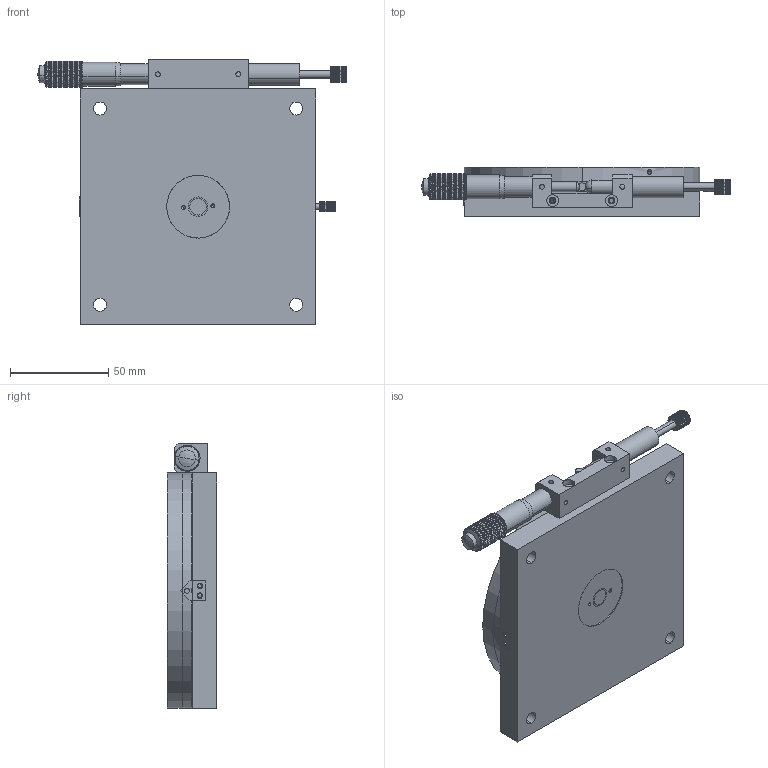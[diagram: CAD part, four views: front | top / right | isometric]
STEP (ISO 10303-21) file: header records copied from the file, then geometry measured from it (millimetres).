
FILE_DESCRIPTION (( 'STEP AP203' ), '1' );
FILE_NAME ('JCR-120L.STEP', '2015-04-15T05:52:57', ( '' ), ( '' ), 'SwSTEP 2.0', 'SolidWorks 2013', '' );
FILE_SCHEMA (( 'CONFIG_CONTROL_DESIGN' ));
Products named in the file (1): JCR-120L
Bounding box: 157.2 x 25 x 135 mm (x, y, z)
Surface area: 63748.2 mm2 (no closed solid volume)
Topology: 0 solids, 17 shells, 1562 faces, 3809 edges, 2193 vertices
Faces by surface type: bspline 960, cylinder 411, plane 170, cone 13, sphere 8
Entity records: 65592 total; most frequent: CARTESIAN_POINT 40200, ORIENTED_EDGE 7201, EDGE_CURVE 3803, DIRECTION 2920, VERTEX_POINT 2193, EDGE_LOOP 1645, FACE_OUTER_BOUND 1562, ADVANCED_FACE 1562
